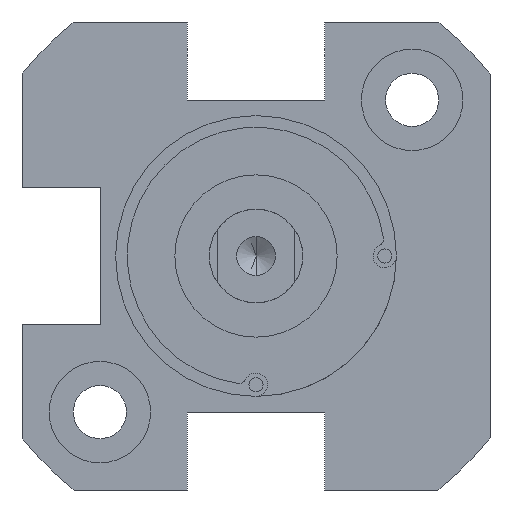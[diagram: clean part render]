
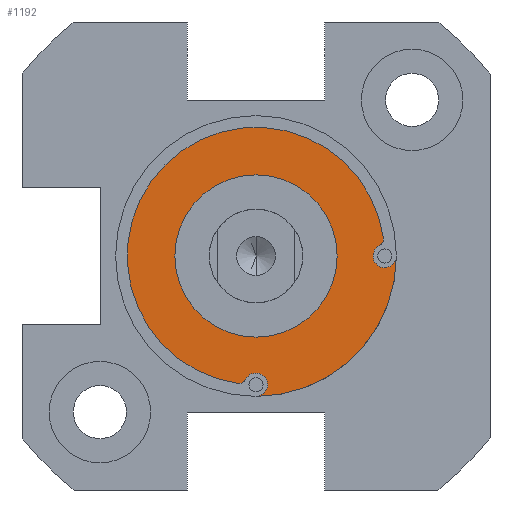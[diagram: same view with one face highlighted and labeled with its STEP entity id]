
A CAD part, front view. The second image highlights one B-rep face of the part: STEP entity #1192.
In plain terms, the highlighted planar face has unit normal (0, -1, 0).
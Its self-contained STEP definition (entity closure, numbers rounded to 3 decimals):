
#22 = CARTESIAN_POINT ( 'NONE',  ( 0., -41.5, 0. ) ) ;
#109 = EDGE_CURVE ( 'NONE', #1237, #1487, #2813, .T. ) ;
#148 = AXIS2_PLACEMENT_3D ( 'NONE', #224, #1171, #3011 ) ;
#178 = CIRCLE ( 'NONE', #223, 9. ) ;
#223 = AXIS2_PLACEMENT_3D ( 'NONE', #22, #1749, #2012 ) ;
#224 = CARTESIAN_POINT ( 'NONE',  ( -1.108, -41.5, -7.67 ) ) ;
#241 = ORIENTED_EDGE ( 'NONE', *, *, #2730, .T. ) ;
#298 = CIRCLE ( 'NONE', #2428, 0.75 ) ;
#308 = VERTEX_POINT ( 'NONE', #856 ) ;
#352 = ORIENTED_EDGE ( 'NONE', *, *, #2122, .T. ) ;
#401 = DIRECTION ( 'NONE',  ( 0., 1., 0. ) ) ;
#503 = CIRCLE ( 'NONE', #2760, 5.2 ) ;
#509 = AXIS2_PLACEMENT_3D ( 'NONE', #852, #1105, #3148 ) ;
#522 = VERTEX_POINT ( 'NONE', #1561 ) ;
#527 = CARTESIAN_POINT ( 'NONE',  ( -0.665, -41.5, -7.902 ) ) ;
#547 = AXIS2_PLACEMENT_3D ( 'NONE', #2293, #759, #2775 ) ;
#606 = ORIENTED_EDGE ( 'NONE', *, *, #1859, .F. ) ;
#637 = CARTESIAN_POINT ( 'NONE',  ( 8.165, -41.5, 1.179 ) ) ;
#650 = VERTEX_POINT ( 'NONE', #637 ) ;
#683 = EDGE_CURVE ( 'NONE', #1569, #882, #2334, .T. ) ;
#701 = FACE_OUTER_BOUND ( 'NONE', #1275, .T. ) ;
#753 = VERTEX_POINT ( 'NONE', #1440 ) ;
#754 = CARTESIAN_POINT ( 'NONE',  ( 0., -41.5, 0. ) ) ;
#759 = DIRECTION ( 'NONE',  ( 0., 1., 0. ) ) ;
#793 = VERTEX_POINT ( 'NONE', #1449 ) ;
#815 = CARTESIAN_POINT ( 'NONE',  ( -1.179, -41.5, -8.165 ) ) ;
#852 = CARTESIAN_POINT ( 'NONE',  ( 0., -41.5, 0. ) ) ;
#856 = CARTESIAN_POINT ( 'NONE',  ( 7.902, -41.5, 0.665 ) ) ;
#882 = VERTEX_POINT ( 'NONE', #2979 ) ;
#886 = ORIENTED_EDGE ( 'NONE', *, *, #683, .T. ) ;
#1057 = DIRECTION ( 'NONE',  ( 0., 0., 1. ) ) ;
#1105 = DIRECTION ( 'NONE',  ( 0., 1., 0. ) ) ;
#1171 = DIRECTION ( 'NONE',  ( 0., -1., 0. ) ) ;
#1176 = CARTESIAN_POINT ( 'NONE',  ( -1.108, -41.5, -7.67 ) ) ;
#1192 = ADVANCED_FACE ( 'NONE', ( #701, #2352 ), #1787, .T. ) ;
#1212 = DIRECTION ( 'NONE',  ( 0., -1., 0. ) ) ;
#1213 = ORIENTED_EDGE ( 'NONE', *, *, #2437, .F. ) ;
#1237 = VERTEX_POINT ( 'NONE', #527 ) ;
#1265 = ORIENTED_EDGE ( 'NONE', *, *, #1684, .T. ) ;
#1275 = EDGE_LOOP ( 'NONE', ( #886, #352, #3170, #1213, #1265, #1416, #2170, #606 ) ) ;
#1317 = CIRCLE ( 'NONE', #148, 0.5 ) ;
#1416 = ORIENTED_EDGE ( 'NONE', *, *, #2894, .T. ) ;
#1440 = CARTESIAN_POINT ( 'NONE',  ( 0., -41.5, 5.2 ) ) ;
#1443 = CARTESIAN_POINT ( 'NONE',  ( 7.67, -41.5, 1.108 ) ) ;
#1449 = CARTESIAN_POINT ( 'NONE',  ( 0., -41.5, -5.2 ) ) ;
#1469 = DIRECTION ( 'NONE',  ( 0., 0., -1. ) ) ;
#1487 = VERTEX_POINT ( 'NONE', #2139 ) ;
#1502 = CARTESIAN_POINT ( 'NONE',  ( 0., -41.5, -8.25 ) ) ;
#1561 = CARTESIAN_POINT ( 'NONE',  ( -1.108, -41.5, -8.17 ) ) ;
#1562 = DIRECTION ( 'NONE',  ( 0., 0., 1. ) ) ;
#1569 = VERTEX_POINT ( 'NONE', #2435 ) ;
#1631 = CARTESIAN_POINT ( 'NONE',  ( 8.25, -41.5, 0. ) ) ;
#1684 = EDGE_CURVE ( 'NONE', #1962, #522, #1923, .T. ) ;
#1749 = DIRECTION ( 'NONE',  ( 0., 1., 0. ) ) ;
#1755 = DIRECTION ( 'NONE',  ( 0., 0., 1. ) ) ;
#1787 = PLANE ( 'NONE',  #2439 ) ;
#1859 = EDGE_CURVE ( 'NONE', #1569, #1487, #178, .T. ) ;
#1896 = CARTESIAN_POINT ( 'NONE',  ( 8.25, -41.5, 0. ) ) ;
#1923 = CIRCLE ( 'NONE', #3165, 0.5 ) ;
#1962 = VERTEX_POINT ( 'NONE', #815 ) ;
#2007 = EDGE_CURVE ( 'NONE', #308, #650, #2586, .T. ) ;
#2012 = DIRECTION ( 'NONE',  ( 0., 0., 1. ) ) ;
#2048 = AXIS2_PLACEMENT_3D ( 'NONE', #1896, #2140, #1057 ) ;
#2078 = CARTESIAN_POINT ( 'NONE',  ( 0., -41.5, 0. ) ) ;
#2102 = CIRCLE ( 'NONE', #547, 8.25 ) ;
#2122 = EDGE_CURVE ( 'NONE', #882, #308, #298, .T. ) ;
#2139 = CARTESIAN_POINT ( 'NONE',  ( 0., -41.5, -9. ) ) ;
#2140 = DIRECTION ( 'NONE',  ( 0., 1., 0. ) ) ;
#2167 = DIRECTION ( 'NONE',  ( 0., 0., -1. ) ) ;
#2170 = ORIENTED_EDGE ( 'NONE', *, *, #109, .T. ) ;
#2180 = CIRCLE ( 'NONE', #509, 5.2 ) ;
#2293 = CARTESIAN_POINT ( 'NONE',  ( 0., -41.5, 0. ) ) ;
#2304 = DIRECTION ( 'NONE',  ( 0., 1., 0. ) ) ;
#2334 = CIRCLE ( 'NONE', #2048, 0.75 ) ;
#2352 = FACE_BOUND ( 'NONE', #2533, .T. ) ;
#2428 = AXIS2_PLACEMENT_3D ( 'NONE', #1631, #401, #2905 ) ;
#2435 = CARTESIAN_POINT ( 'NONE',  ( 9., -41.5, 0. ) ) ;
#2437 = EDGE_CURVE ( 'NONE', #1962, #650, #2102, .T. ) ;
#2439 = AXIS2_PLACEMENT_3D ( 'NONE', #754, #3033, #1755 ) ;
#2455 = EDGE_CURVE ( 'NONE', #793, #753, #503, .T. ) ;
#2533 = EDGE_LOOP ( 'NONE', ( #2666, #241 ) ) ;
#2586 = CIRCLE ( 'NONE', #2785, 0.5 ) ;
#2666 = ORIENTED_EDGE ( 'NONE', *, *, #2455, .T. ) ;
#2730 = EDGE_CURVE ( 'NONE', #753, #793, #2180, .T. ) ;
#2750 = DIRECTION ( 'NONE',  ( 0., 0., 1. ) ) ;
#2760 = AXIS2_PLACEMENT_3D ( 'NONE', #2078, #2304, #1562 ) ;
#2775 = DIRECTION ( 'NONE',  ( 0., 0., 1. ) ) ;
#2785 = AXIS2_PLACEMENT_3D ( 'NONE', #1443, #1212, #1469 ) ;
#2813 = CIRCLE ( 'NONE', #3156, 0.75 ) ;
#2894 = EDGE_CURVE ( 'NONE', #522, #1237, #1317, .T. ) ;
#2905 = DIRECTION ( 'NONE',  ( 0., 0., 1. ) ) ;
#2979 = CARTESIAN_POINT ( 'NONE',  ( 8.25, -41.5, -0.75 ) ) ;
#3011 = DIRECTION ( 'NONE',  ( 0., 0., -1. ) ) ;
#3033 = DIRECTION ( 'NONE',  ( 0., -1., 0. ) ) ;
#3148 = DIRECTION ( 'NONE',  ( 0., 0., 1. ) ) ;
#3156 = AXIS2_PLACEMENT_3D ( 'NONE', #1502, #3255, #2750 ) ;
#3165 = AXIS2_PLACEMENT_3D ( 'NONE', #1176, #3186, #2167 ) ;
#3170 = ORIENTED_EDGE ( 'NONE', *, *, #2007, .T. ) ;
#3186 = DIRECTION ( 'NONE',  ( 0., -1., 0. ) ) ;
#3255 = DIRECTION ( 'NONE',  ( 0., 1., 0. ) ) ;
